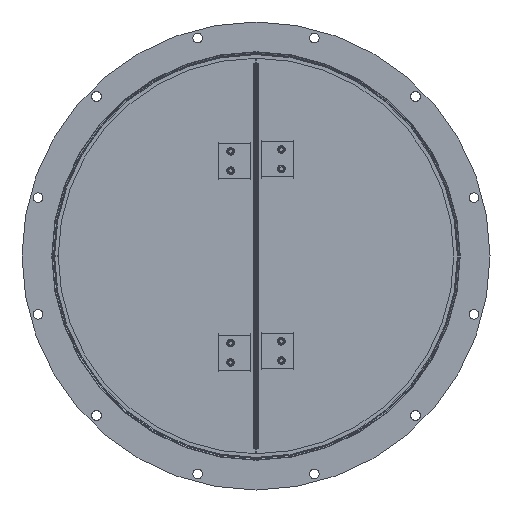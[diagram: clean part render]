
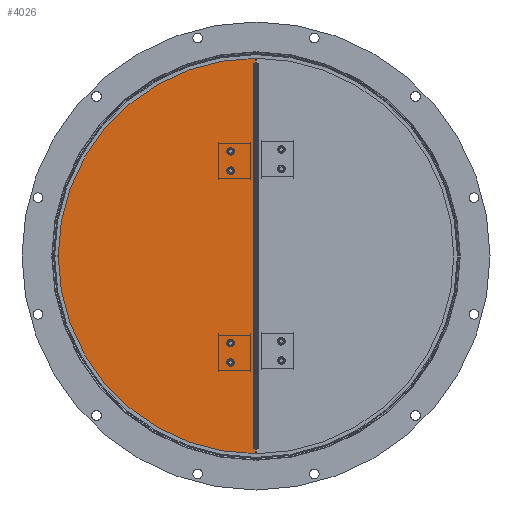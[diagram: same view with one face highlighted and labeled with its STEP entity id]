
A CAD part, left-side view. The second image highlights one B-rep face of the part: STEP entity #4026.
In plain terms, the highlighted planar face has unit normal (-1, 0, 0) as drawn and (0, 0, -1) by its records, which use the part's own axes.
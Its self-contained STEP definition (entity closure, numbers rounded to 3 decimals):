
#305=FACE_BOUND('',#1008,.T.);
#306=FACE_BOUND('',#1009,.T.);
#307=FACE_BOUND('',#1010,.T.);
#308=FACE_BOUND('',#1011,.T.);
#529=PLANE('',#4737);
#706=FACE_OUTER_BOUND('',#1007,.T.);
#1007=EDGE_LOOP('',(#3167,#3168,#3169,#3170,#3171,#3172,#3173,#3174,#3175,
#3176,#3177));
#1008=EDGE_LOOP('',(#3178));
#1009=EDGE_LOOP('',(#3179));
#1010=EDGE_LOOP('',(#3180));
#1011=EDGE_LOOP('',(#3181));
#1329=LINE('',#6845,#1546);
#1351=LINE('',#6908,#1568);
#1352=LINE('',#6911,#1569);
#1355=LINE('',#6918,#1572);
#1356=LINE('',#6923,#1573);
#1357=LINE('',#6925,#1574);
#1358=LINE('',#6928,#1575);
#1546=VECTOR('',#5462,10.);
#1568=VECTOR('',#5530,10.);
#1569=VECTOR('',#5533,10.);
#1572=VECTOR('',#5542,10.);
#1573=VECTOR('',#5547,10.);
#1574=VECTOR('',#5548,10.);
#1575=VECTOR('',#5551,10.);
#1772=CIRCLE('',#4699,4.);
#1781=CIRCLE('',#4716,2.6);
#1782=CIRCLE('',#4718,2.6);
#1783=CIRCLE('',#4720,2.6);
#1784=CIRCLE('',#4722,2.6);
#1789=CIRCLE('',#4735,0.05);
#1790=CIRCLE('',#4738,249.25);
#1791=CIRCLE('',#4739,0.05);
#2037=VERTEX_POINT('',#6807);
#2039=VERTEX_POINT('',#6810);
#2054=VERTEX_POINT('',#6844);
#2067=VERTEX_POINT('',#6881);
#2068=VERTEX_POINT('',#6884);
#2069=VERTEX_POINT('',#6887);
#2070=VERTEX_POINT('',#6890);
#2071=VERTEX_POINT('',#6897);
#2072=VERTEX_POINT('',#6901);
#2073=VERTEX_POINT('',#6910);
#2074=VERTEX_POINT('',#6914);
#2075=VERTEX_POINT('',#6920);
#2076=VERTEX_POINT('',#6922);
#2077=VERTEX_POINT('',#6924);
#2078=VERTEX_POINT('',#6926);
#2434=EDGE_CURVE('',#2039,#2037,#1772,.T.);
#2451=EDGE_CURVE('',#2039,#2054,#1329,.T.);
#2469=EDGE_CURVE('',#2067,#2067,#1781,.T.);
#2470=EDGE_CURVE('',#2068,#2068,#1782,.T.);
#2471=EDGE_CURVE('',#2069,#2069,#1783,.T.);
#2472=EDGE_CURVE('',#2070,#2070,#1784,.T.);
#2481=EDGE_CURVE('',#2071,#2072,#1351,.T.);
#2482=EDGE_CURVE('',#2073,#2054,#1352,.T.);
#2484=EDGE_CURVE('',#2074,#2073,#1789,.T.);
#2486=EDGE_CURVE('',#2072,#2074,#1355,.T.);
#2487=EDGE_CURVE('',#2075,#2037,#1790,.T.);
#2488=EDGE_CURVE('',#2076,#2075,#1356,.T.);
#2489=EDGE_CURVE('',#2076,#2077,#1357,.T.);
#2490=EDGE_CURVE('',#2077,#2078,#1791,.T.);
#2491=EDGE_CURVE('',#2078,#2071,#1358,.T.);
#3167=ORIENTED_EDGE('',*,*,#2434,.T.);
#3168=ORIENTED_EDGE('',*,*,#2487,.F.);
#3169=ORIENTED_EDGE('',*,*,#2488,.F.);
#3170=ORIENTED_EDGE('',*,*,#2489,.T.);
#3171=ORIENTED_EDGE('',*,*,#2490,.T.);
#3172=ORIENTED_EDGE('',*,*,#2491,.T.);
#3173=ORIENTED_EDGE('',*,*,#2481,.T.);
#3174=ORIENTED_EDGE('',*,*,#2486,.T.);
#3175=ORIENTED_EDGE('',*,*,#2484,.T.);
#3176=ORIENTED_EDGE('',*,*,#2482,.T.);
#3177=ORIENTED_EDGE('',*,*,#2451,.F.);
#3178=ORIENTED_EDGE('',*,*,#2469,.T.);
#3179=ORIENTED_EDGE('',*,*,#2470,.T.);
#3180=ORIENTED_EDGE('',*,*,#2471,.T.);
#3181=ORIENTED_EDGE('',*,*,#2472,.T.);
#4026=ADVANCED_FACE('',(#706,#305,#306,#307,#308),#529,.F.);
#4699=AXIS2_PLACEMENT_3D('',#6811,#5432,#5433);
#4716=AXIS2_PLACEMENT_3D('',#6882,#5492,#5493);
#4718=AXIS2_PLACEMENT_3D('',#6885,#5496,#5497);
#4720=AXIS2_PLACEMENT_3D('',#6888,#5500,#5501);
#4722=AXIS2_PLACEMENT_3D('',#6891,#5504,#5505);
#4735=AXIS2_PLACEMENT_3D('',#6915,#5537,#5538);
#4737=AXIS2_PLACEMENT_3D('',#6919,#5543,#5544);
#4738=AXIS2_PLACEMENT_3D('',#6921,#5545,#5546);
#4739=AXIS2_PLACEMENT_3D('',#6927,#5549,#5550);
#5432=DIRECTION('center_axis',(0.,0.,1.));
#5433=DIRECTION('ref_axis',(1.,0.,0.));
#5462=DIRECTION('',(0.,-1.,0.));
#5492=DIRECTION('center_axis',(0.,0.,1.));
#5493=DIRECTION('ref_axis',(1.,0.,0.));
#5496=DIRECTION('center_axis',(0.,0.,1.));
#5497=DIRECTION('ref_axis',(1.,0.,0.));
#5500=DIRECTION('center_axis',(0.,0.,1.));
#5501=DIRECTION('ref_axis',(1.,0.,0.));
#5504=DIRECTION('center_axis',(0.,0.,1.));
#5505=DIRECTION('ref_axis',(1.,0.,0.));
#5530=DIRECTION('',(0.,1.,0.));
#5533=DIRECTION('',(-1.,0.,0.));
#5537=DIRECTION('center_axis',(0.,0.,1.));
#5538=DIRECTION('ref_axis',(0.,-1.,0.));
#5542=DIRECTION('',(1.,0.,0.));
#5543=DIRECTION('center_axis',(0.,0.,1.));
#5544=DIRECTION('ref_axis',(1.,0.,0.));
#5545=DIRECTION('center_axis',(0.,0.,1.));
#5546=DIRECTION('ref_axis',(0.004,-1.,0.));
#5547=DIRECTION('',(0.,-1.,0.));
#5548=DIRECTION('',(1.,0.,0.));
#5549=DIRECTION('center_axis',(0.,0.,1.));
#5550=DIRECTION('ref_axis',(0.,1.,0.));
#5551=DIRECTION('',(-1.,0.,0.));
#6807=CARTESIAN_POINT('',(5.,249.2,0.));
#6810=CARTESIAN_POINT('',(1.,245.248,0.));
#6811=CARTESIAN_POINT('Origin',(1.,249.248,0.));
#6844=CARTESIAN_POINT('',(1.,239.348,0.));
#6845=CARTESIAN_POINT('',(1.,249.248,0.));
#6881=CARTESIAN_POINT('',(28.9,105.9,0.));
#6882=CARTESIAN_POINT('Origin',(31.5,105.9,0.));
#6884=CARTESIAN_POINT('',(28.9,129.9,0.));
#6885=CARTESIAN_POINT('Origin',(31.5,129.9,0.));
#6887=CARTESIAN_POINT('',(28.9,-132.2,0.));
#6888=CARTESIAN_POINT('Origin',(31.5,-132.2,0.));
#6890=CARTESIAN_POINT('',(28.9,-108.2,0.));
#6891=CARTESIAN_POINT('Origin',(31.5,-108.2,0.));
#6897=CARTESIAN_POINT('',(2.5,-239.248,0.));
#6901=CARTESIAN_POINT('',(2.5,239.248,0.));
#6908=CARTESIAN_POINT('',(2.5,119.624,0.));
#6910=CARTESIAN_POINT('',(2.55,239.348,0.));
#6911=CARTESIAN_POINT('',(44.5,239.348,0.));
#6914=CARTESIAN_POINT('',(2.55,239.248,0.));
#6915=CARTESIAN_POINT('Origin',(2.55,239.298,0.));
#6918=CARTESIAN_POINT('',(45.275,239.248,0.));
#6919=CARTESIAN_POINT('Origin',(87.999,0.,0.));
#6920=CARTESIAN_POINT('',(1.,-249.248,0.));
#6921=CARTESIAN_POINT('Origin',(0.,0.,0.));
#6922=CARTESIAN_POINT('',(1.,-239.348,0.));
#6923=CARTESIAN_POINT('',(1.,249.248,0.));
#6924=CARTESIAN_POINT('',(2.55,-239.348,0.));
#6925=CARTESIAN_POINT('',(45.275,-239.348,0.));
#6926=CARTESIAN_POINT('',(2.55,-239.248,0.));
#6927=CARTESIAN_POINT('Origin',(2.55,-239.298,0.));
#6928=CARTESIAN_POINT('',(44.5,-239.248,0.));
